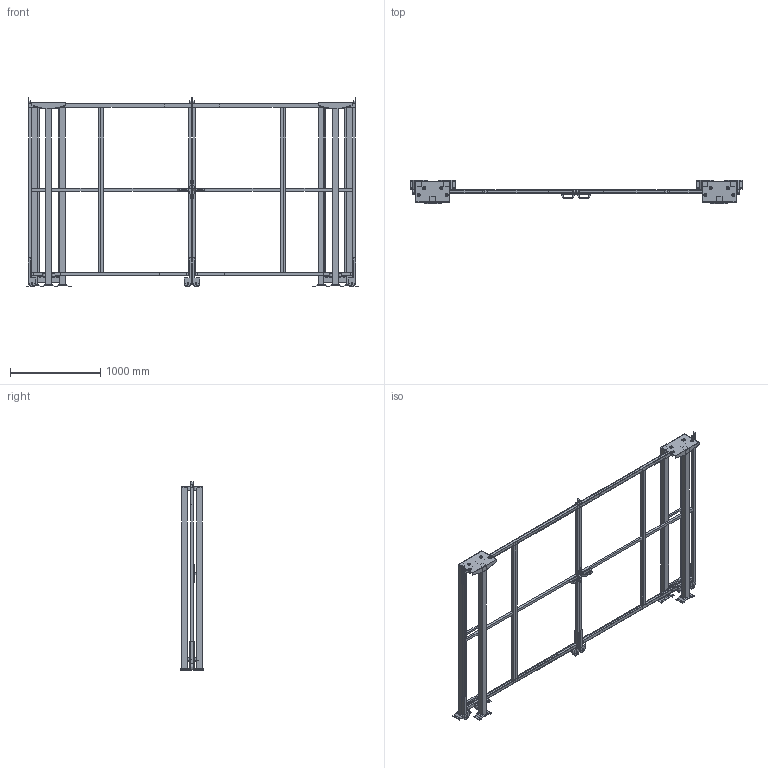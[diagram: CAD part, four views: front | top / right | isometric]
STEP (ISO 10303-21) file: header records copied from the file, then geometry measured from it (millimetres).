
FILE_DESCRIPTION(/* description */ (''),/* implementation_level */ '2;1');
FILE_NAME(/* name */ 'C:\SafeGuarding\ELABORATI\KLADKA2KR_2025-03-25-09-28-27.stp',/* time_stamp */ '2025-03-25T09:28:31+01:00',/* author */ ('admin'),/* organization */ (''),/* preprocessor_version */ 'ST-DEVELOPER v18.1',/* originating_system */ 'AutoCAD Mechanical',/* authorisation */ '');
FILE_SCHEMA (('AUTOMOTIVE_DESIGN { 1 0 10303 214 3 1 1 }'));
Length unit declared in the file: millimetre
Products named in the file (5): Product; R_VFPA.REPE30.08001900; R_VFPA.REPE30.10001900; R_VFPA.REPE20.02501900; P_VFMA.V260SDU.2020
Assembly tree (12 placements, depth 2):
  Product
    R_VFPA.REPE30.08001900  x2
    R_VFPA.REPE30.10001900  x2
    R_VFPA.REPE20.02501900  x2
    P_VFMA.V260SDU.2020  x6
Bounding box: 3671.92 x 264.01 x 2090.02 mm (x, y, z)
Volume: 76268353.5 mm3; surface area: 11156047.5 mm2
Topology: 108 solids, 130 shells, 946 faces, 2920 edges, 2986 vertices
Faces by surface type: plane 870, cylinder 76
Full cylindrical faces by diameter (mm): 9 x8, 11 x24, 13 x8, 14 x4, 30 x12, 36 x16, 80 x4
Entity records: 23853 total; most frequent: CARTESIAN_POINT 5073, DIRECTION 3630, ORIENTED_EDGE 3372, EDGE_CURVE 1784, LINE 1688, VECTOR 1688, VERTEX_POINT 1268, AXIS2_PLACEMENT_3D 971
